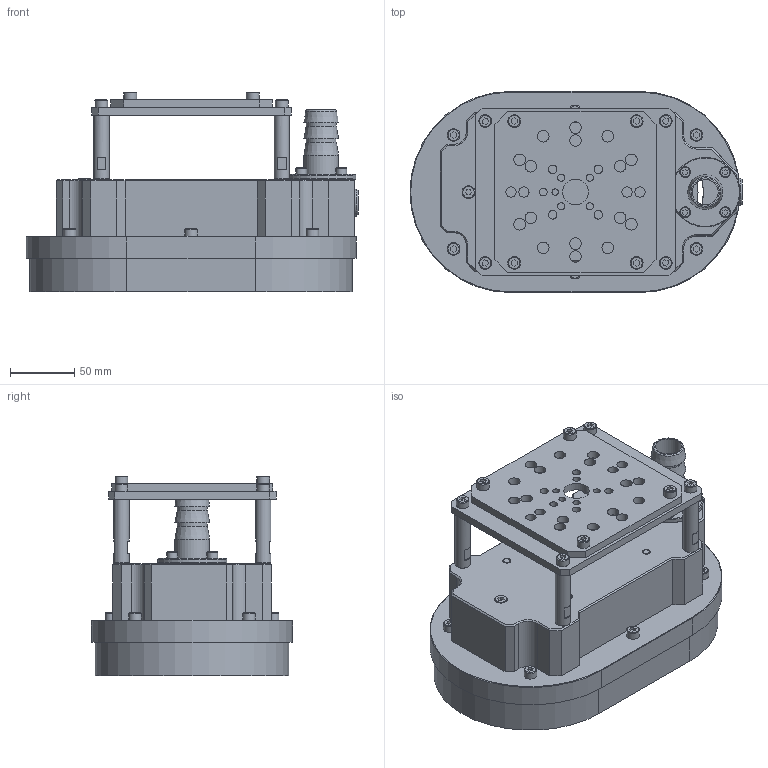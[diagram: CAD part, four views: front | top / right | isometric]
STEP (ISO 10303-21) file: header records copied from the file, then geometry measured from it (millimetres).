
FILE_DESCRIPTION(('STEP AP214'),'1');
FILE_NAME('SGP-H2A-150X250-CRT30-G02.stp','2024-06-28T04:14:00',(' '),(' '),'Spatial InterOp 3D',' ',' ');
FILE_SCHEMA(('AUTOMOTIVE_DESIGN { 1 0 10303 214 1 1 1 1 }'));
Length unit declared in the file: millimetre
Products named in the file (55): SGP-H2-150X250-CRT30-G02; Body; CBSTS6-12; Stopper; shaft 02; shaft 03; PAD; Ring; Base; CB6; ねじ : 穴付き - M6.0 x 12.0; SGP-000-3302 FLプレートA; SETGR12-50; M6.0 x 10.0; MSWTSK4; 外付けポートAssy; Fitting25; M5×10CP; ねじ : 穴付き - M5.0 x 10.0; OリングS-31.5; 1/8プラグ
Assembly tree (54 placements, depth 4):
  SGP-H2-150X250-CRT30-G02
    Body
    CBSTS6-12
    CBSTS6-12
    CBSTS6-12
    CBSTS6-12
    Stopper
    shaft 02
    shaft 03
    shaft 03
    shaft 02
    shaft 02
    shaft 03
    shaft 03
    shaft 02
    PAD
    Ring
    Base
    CB6
      ねじ : 穴付き - M6.0 x 12.0
    CB6
      ねじ : 穴付き - M6.0 x 12.0
    CB6
      ねじ : 穴付き - M6.0 x 12.0
    CB6
      ねじ : 穴付き - M6.0 x 12.0
    CB6
      ねじ : 穴付き - M6.0 x 12.0
      ねじ : 穴付き - M6.0 x 12.0
      ねじ : 穴付き - M6.0 x 12.0
      ねじ : 穴付き - M6.0 x 12.0
    SGP-000-3302 FLプレートA
    SETGR12-50
    SETGR12-50
    SETGR12-50
    SETGR12-50
    M6.0 x 10.0
    M6.0 x 10.0
    M6.0 x 10.0
    M6.0 x 10.0
    M6.0 x 10.0
    M6.0 x 10.0
    MSWTSK4
    外付けポートAssy
      Fitting25
      M5×10CP
        ねじ : 穴付き - M5.0 x 10.0
      M5×10CP
        ねじ : 穴付き - M5.0 x 10.0
      M5×10CP
        ねじ : 穴付き - M5.0 x 10.0
      M5×10CP
        ねじ : 穴付き - M5.0 x 10.0
      OリングS-31.5
    1/8プラグ
Bounding box: 257.51 x 156 x 155.12 mm (x, y, z)
Volume: 1279180.9 mm3; surface area: 391232.1 mm2
Topology: 44 solids, 44 shells, 956 faces, 2113 edges, 1365 vertices
Faces by surface type: plane 552, cylinder 280, cone 118, torus 6
Full cylindrical faces by diameter (mm): 4.4 x4, 4.917 x4, 5 x21, 5.5 x8, 6 x43, 6.6 x8, 7 x14, 8 x4, 8.385 x4, 8.5 x1, 9 x16, 9.87 x14, 10 x27, 10.5 x3, 12 x4, 13 x8, 15 x16, 18 x1, 20 x3, 23.474 x2, 27 x3, 30 x1, 36 x1, 54 x1, 118 x1
Entity records: 34514 total; most frequent: DIRECTION 4492, CARTESIAN_POINT 4436, ORIENTED_EDGE 3444, AXIS2_PLACEMENT_3D 1758, EDGE_CURVE 1722, EDGE_LOOP 1603, VERTEX_POINT 1322, FACE_OUTER_BOUND 1172
